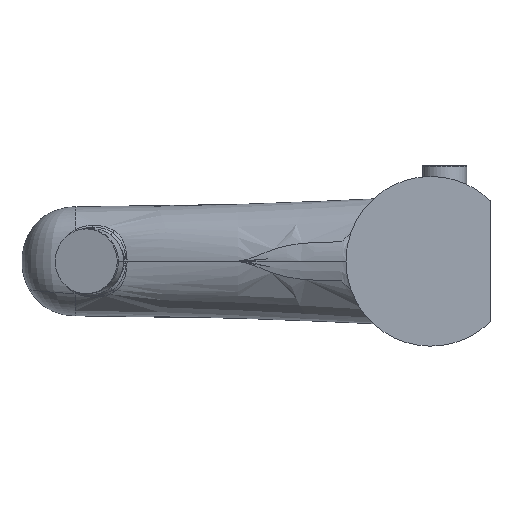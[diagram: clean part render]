
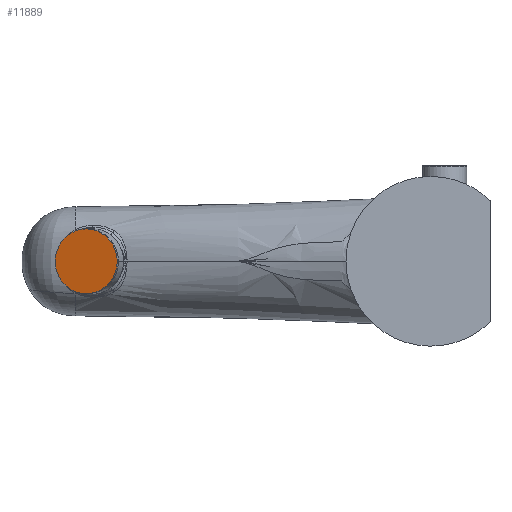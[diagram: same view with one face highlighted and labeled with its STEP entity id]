
A CAD part, front view. The second image highlights one B-rep face of the part: STEP entity #11889.
In plain terms, the highlighted planar face has unit normal (-0.297, -0.955, 0).
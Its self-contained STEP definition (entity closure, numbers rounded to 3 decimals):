
#1065 = CARTESIAN_POINT ( 'NONE',  ( -139.639, 120.962, 0. ) ) ;
#2219 = EDGE_CURVE ( 'NONE', #19384, #9893, #14930, .T. ) ;
#3648 = CARTESIAN_POINT ( 'NONE',  ( -128.12, 117.382, 0. ) ) ;
#6243 = DIRECTION ( 'NONE',  ( -0.297, -0.955, 0. ) ) ;
#6376 = FACE_OUTER_BOUND ( 'NONE', #13681, .T. ) ;
#6999 = AXIS2_PLACEMENT_3D ( 'NONE', #20680, #6243, #18456 ) ;
#7612 = CIRCLE ( 'NONE', #23986, 12.063 ) ;
#8320 = PLANE ( 'NONE',  #6999 ) ;
#9008 = CARTESIAN_POINT ( 'NONE',  ( -128.12, 117.382, 0. ) ) ;
#9188 = AXIS2_PLACEMENT_3D ( 'NONE', #9008, #19269, #23858 ) ;
#9893 = VERTEX_POINT ( 'NONE', #1065 ) ;
#10955 = ORIENTED_EDGE ( 'NONE', *, *, #2219, .T. ) ;
#11889 = ADVANCED_FACE ( 'NONE', ( #6376 ), #8320, .T. ) ;
#12251 = DIRECTION ( 'NONE',  ( -0.297, -0.955, 0. ) ) ;
#13383 = EDGE_CURVE ( 'NONE', #9893, #19384, #7612, .T. ) ;
#13681 = EDGE_LOOP ( 'NONE', ( #21463, #10955 ) ) ;
#14471 = DIRECTION ( 'NONE',  ( 0.955, -0.297, 0. ) ) ;
#14930 = CIRCLE ( 'NONE', #9188, 12.063 ) ;
#18456 = DIRECTION ( 'NONE',  ( -0.955, 0.297, 0. ) ) ;
#19269 = DIRECTION ( 'NONE',  ( -0.297, -0.955, 0. ) ) ;
#19384 = VERTEX_POINT ( 'NONE', #19975 ) ;
#19975 = CARTESIAN_POINT ( 'NONE',  ( -116.6, 113.803, 0. ) ) ;
#20680 = CARTESIAN_POINT ( 'NONE',  ( -128.12, 117.382, 0. ) ) ;
#21463 = ORIENTED_EDGE ( 'NONE', *, *, #13383, .T. ) ;
#23858 = DIRECTION ( 'NONE',  ( 0.955, -0.297, 0. ) ) ;
#23986 = AXIS2_PLACEMENT_3D ( 'NONE', #3648, #12251, #14471 ) ;
